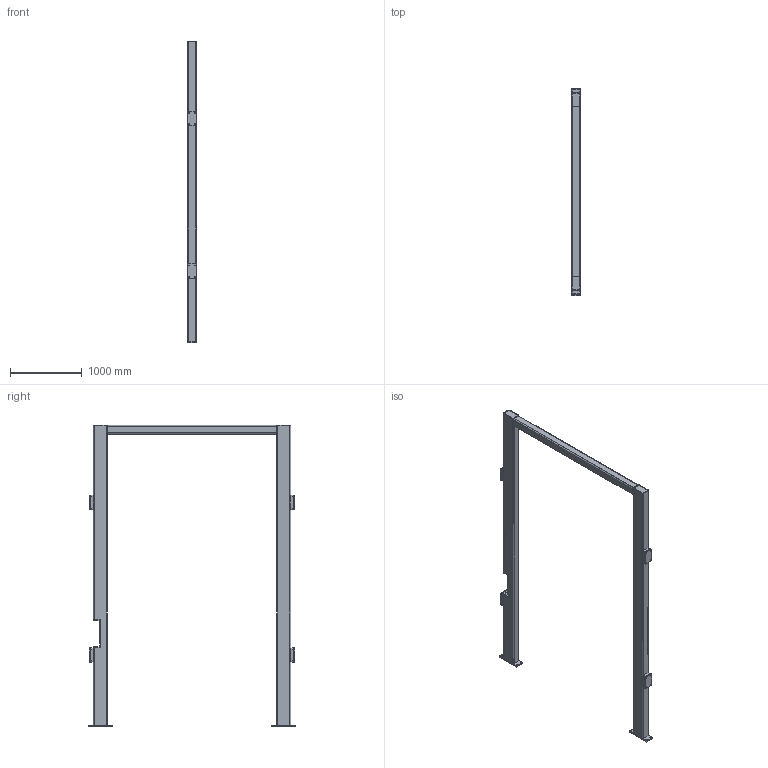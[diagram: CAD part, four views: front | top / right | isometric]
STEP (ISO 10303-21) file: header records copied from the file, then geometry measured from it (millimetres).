
FILE_DESCRIPTION(/* description */ ('Rammschutz'),/* implementation_level */ '2;1');
FILE_NAME(/* name */ '00055286.stp',/* time_stamp */ '2023-08-08T14:41:32+02:00',/* author */ ('MD10'),/* organization */ (''),/* preprocessor_version */ 'ST-DEVELOPER v19.2',/* originating_system */ 'Autodesk Inventor 2023',/* authorisation */ '');
FILE_SCHEMA (('AUTOMOTIVE_DESIGN { 1 0 10303 214 3 1 1 }'));
Length unit declared in the file: millimetre
Products named in the file (9): 00055286; 00055286-S01; 00055286-S06; 00055286-S02; 00055286-S05; 00055286-S03; 00055286-S04; 00055286-S07; 00055286-S08
Assembly tree (16 placements, depth 2):
  00055286
    00055286-S01
    00055286-S06
    00055286-S02  x2
    00055286-S03  x4
    00055286-S04  x4
    00055286-S05
    00055286-S07
    00055286-S08  x2
Bounding box: 120 x 2900 x 4208 mm (x, y, z)
Volume: 72497817.1 mm3; surface area: 12254521.2 mm2
Topology: 16 solids, 16 shells, 242 faces, 620 edges, 408 vertices
Faces by surface type: plane 142, cylinder 100
Full cylindrical faces by diameter (mm): 10.106 x16, 20 x8
Entity records: 4673 total; most frequent: DIRECTION 794, CARTESIAN_POINT 751, ORIENTED_EDGE 712, EDGE_CURVE 356, AXIS2_PLACEMENT_3D 275, LINE 244, VECTOR 244, VERTEX_POINT 232
